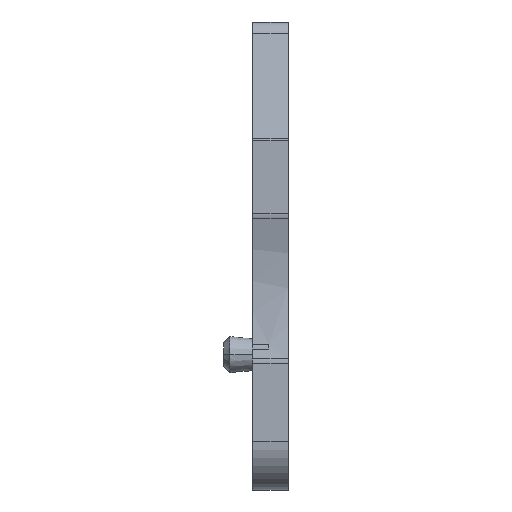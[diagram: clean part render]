
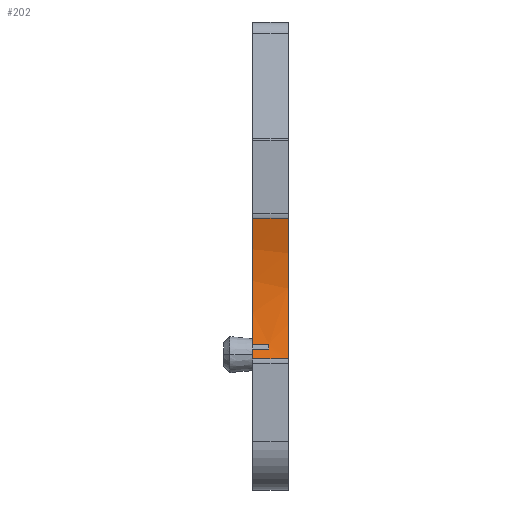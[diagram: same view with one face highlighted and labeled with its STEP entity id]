
A CAD part, left-side view. The second image highlights one B-rep face of the part: STEP entity #202.
In plain terms, the highlighted cylindrical face has radius 15 mm (diameter 30 mm), a partial arc.
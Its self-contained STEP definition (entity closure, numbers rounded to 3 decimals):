
#108=CARTESIAN_POINT('',(-30.857,-2.2,17.31));
#109=VERTEX_POINT('',#108);
#110=CARTESIAN_POINT('',(-30.857,0.,17.31));
#111=VERTEX_POINT('',#110);
#112=CARTESIAN_POINT('',(-30.857,-2.2,17.31));
#113=DIRECTION('',(0.,1.,0.));
#114=VECTOR('',#113,2.2);
#115=LINE('',#112,#114);
#116=EDGE_CURVE('',#109,#111,#115,.T.);
#136=CARTESIAN_POINT('',(-45.209,0.22,12.95));
#137=DIRECTION('',(0.957,0.,-0.291));
#138=DIRECTION('',(0.,-1.,0.));
#139=AXIS2_PLACEMENT_3D('',#136,#138,#137);
#140=CYLINDRICAL_SURFACE('',#139,15.);
#141=CARTESIAN_POINT('',(-30.857,-2.2,8.59));
#142=VERTEX_POINT('',#141);
#143=CARTESIAN_POINT('',(-45.209,-2.2,12.95));
#144=DIRECTION('',(0.957,0.,-0.291));
#145=DIRECTION('',(0.,-1.,0.));
#146=AXIS2_PLACEMENT_3D('',#143,#145,#144);
#147=CIRCLE('',#146,15.);
#148=EDGE_CURVE('',#142,#109,#147,.T.);
#149=ORIENTED_EDGE('E1353',*,*,#148,.F.);
#150=CARTESIAN_POINT('',(-30.857,0.,8.59));
#151=VERTEX_POINT('',#150);
#152=CARTESIAN_POINT('',(-30.857,-2.2,8.59));
#153=DIRECTION('',(0.,1.,0.));
#154=VECTOR('',#153,2.2);
#155=LINE('',#152,#154);
#156=EDGE_CURVE('',#142,#151,#155,.T.);
#157=ORIENTED_EDGE('E18',*,*,#156,.T.);
#158=CARTESIAN_POINT('',(-30.696,0.,9.16));
#159=VERTEX_POINT('',#158);
#160=CARTESIAN_POINT('',(-45.209,0.,12.95));
#161=DIRECTION('',(0.957,0.,-0.291));
#162=DIRECTION('',(0.,-1.,0.));
#163=AXIS2_PLACEMENT_3D('',#160,#162,#161);
#164=CIRCLE('',#163,15.);
#165=EDGE_CURVE('',#151,#159,#164,.T.);
#166=ORIENTED_EDGE('E1279',*,*,#165,.T.);
#167=CARTESIAN_POINT('',(-30.696,-1.,9.16));
#168=VERTEX_POINT('',#167);
#169=CARTESIAN_POINT('',(-30.696,-1.,9.16));
#170=DIRECTION('',(0.,1.,0.));
#171=VECTOR('',#170,1.);
#172=LINE('',#169,#171);
#173=EDGE_CURVE('',#168,#159,#172,.T.);
#174=ORIENTED_EDGE('E20',*,*,#173,.F.);
#175=CARTESIAN_POINT('',(-30.611,-1.,9.502));
#176=VERTEX_POINT('',#175);
#177=CARTESIAN_POINT('',(-45.209,-1.,12.95));
#178=DIRECTION('',(0.973,0.,-0.23));
#179=DIRECTION('',(0.,1.,0.));
#180=AXIS2_PLACEMENT_3D('',#177,#179,#178);
#181=CIRCLE('',#180,15.);
#182=EDGE_CURVE('',#176,#168,#181,.T.);
#183=ORIENTED_EDGE('E21',*,*,#182,.F.);
#184=CARTESIAN_POINT('',(-30.611,0.,9.502));
#185=VERTEX_POINT('',#184);
#186=CARTESIAN_POINT('',(-30.611,-1.,9.502));
#187=DIRECTION('',(0.,1.,0.));
#188=VECTOR('',#187,1.);
#189=LINE('',#186,#188);
#190=EDGE_CURVE('',#176,#185,#189,.T.);
#191=ORIENTED_EDGE('E22',*,*,#190,.T.);
#192=CARTESIAN_POINT('',(-45.209,0.,12.95));
#193=DIRECTION('',(0.957,0.,0.291));
#194=DIRECTION('',(0.,1.,0.));
#195=AXIS2_PLACEMENT_3D('',#192,#194,#193);
#196=CIRCLE('',#195,15.);
#197=EDGE_CURVE('',#111,#185,#196,.T.);
#198=ORIENTED_EDGE('E1277',*,*,#197,.F.);
#199=ORIENTED_EDGE('E1277',*,*,#116,.F.);
#200=EDGE_LOOP('',(#149,#157,#166,#174,#183,#191,#198,#199));
#201=FACE_OUTER_BOUND('',#200,.F.);
#202=ADVANCED_FACE('F6',(#201),#140,.F.);
